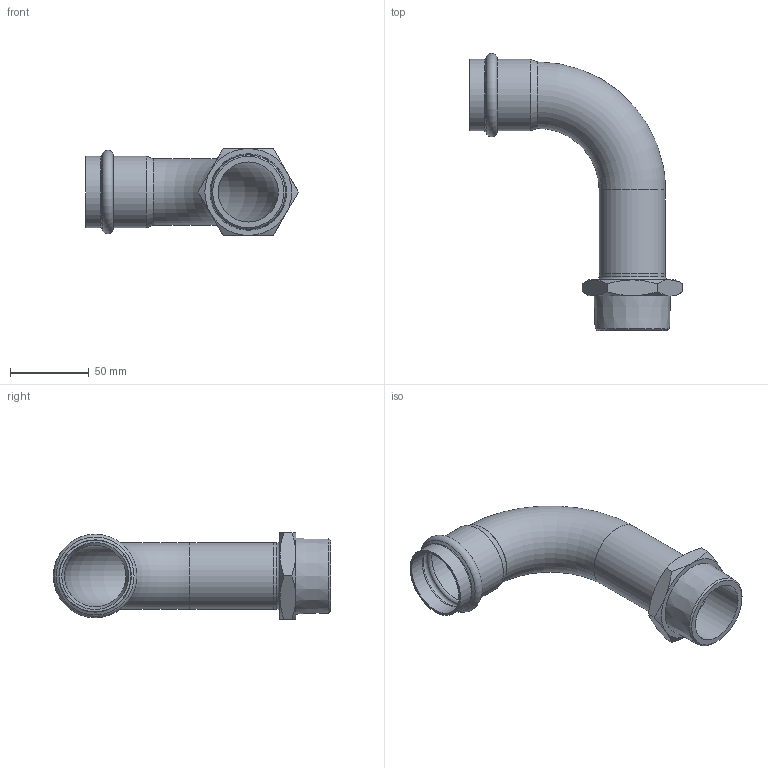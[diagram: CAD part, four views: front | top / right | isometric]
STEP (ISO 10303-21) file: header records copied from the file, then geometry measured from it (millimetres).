
FILE_DESCRIPTION((''),'2;1');
FILE_NAME('G:\Technics\CAD\Bauteile\042\69002AG42112(1).stp','2008-03-03T13:36:34',('herberg'),(''),'Autodesk Inventor 2008','Autodesk Inventor 2008','');
FILE_SCHEMA(('AUTOMOTIVE_DESIGN { 1 0 10303 214 1 1 1 1 }'));
Length unit declared in the file: millimetre
Products named in the file (3): 69002AG42112(1); 69001A42(1); AG42112(2)
Assembly tree (2 placements, depth 2):
  69002AG42112(1)
    69001A42(1)
    AG42112(2)
Bounding box: 134.75 x 175.4 x 55 mm (x, y, z)
Volume: 67310.6 mm3; surface area: 63540.1 mm2
Topology: 2 solids, 2 shells, 51 faces, 109 edges, 64 vertices
Faces by surface type: cone 18, plane 12, cylinder 9, bspline 8, torus 4
Full cylindrical faces by diameter (mm): 39 x2, 42 x3, 42.3 x2, 45.3 x2
Entity records: 1457 total; most frequent: CARTESIAN_POINT 505, DIRECTION 190, ORIENTED_EDGE 148, AXIS2_PLACEMENT_3D 92, EDGE_LOOP 84, EDGE_CURVE 74, VERTEX_POINT 56, FACE_OUTER_BOUND 51
